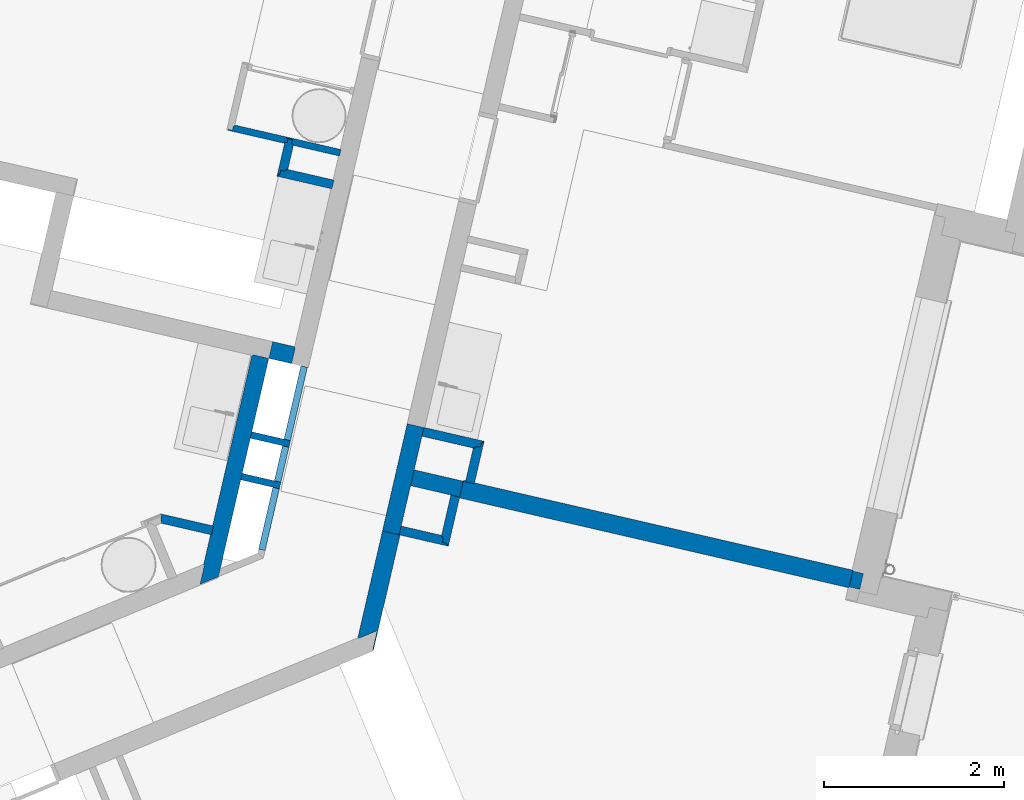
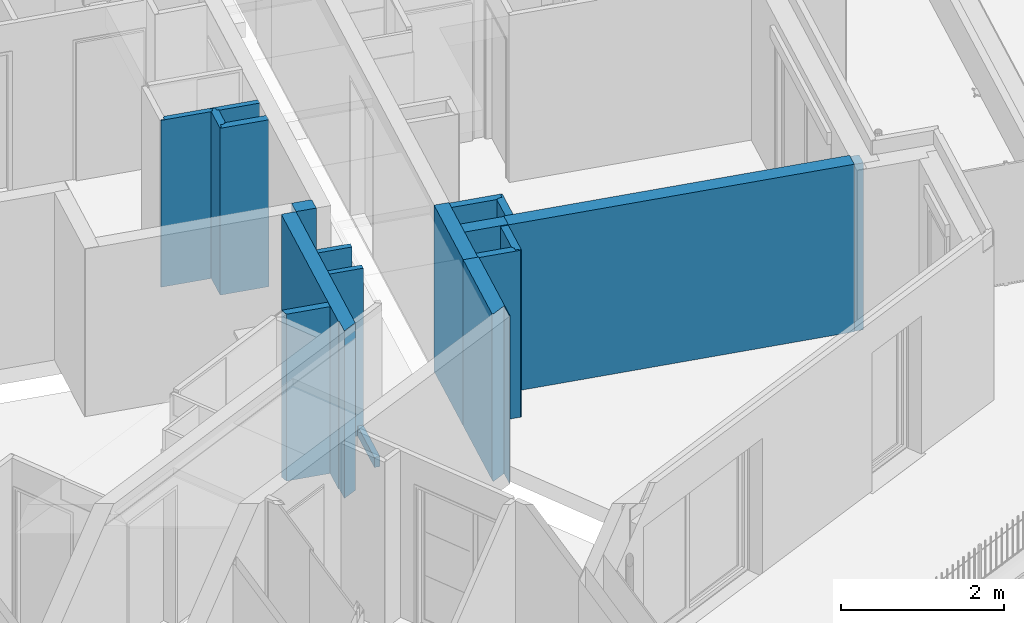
# One storey, part 43 of 119: 19 walls.
"""IFC2X3 building model written with IfcOpenShell, lengths in metres."""

from ifc_helpers import new_model, entity, si_unit, converted_unit, derived_unit, money_unit, direction, frame, origin_with_axes, place, context, subcontext, project, spatial, faceted_brep, material, material_list, type_object, element, save


model = new_model("IFC2X3")

# Units and contexts
model_context = context("Model", 3, precision=1e-05, world=origin_with_axes(), true_north=direction((0.0, 1.0)))
body_context = subcontext(model_context, "Body", "Model", "MODEL_VIEW")
ifc_project = project(units=[si_unit("LENGTHUNIT", "METRE"), si_unit("AREAUNIT", "SQUARE_METRE"), si_unit("VOLUMEUNIT", "CUBIC_METRE"), converted_unit("PLANEANGLEUNIT", "DEGREE", entity("IfcPlaneAngleMeasure", 0.0174532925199), si_unit("PLANEANGLEUNIT", "RADIAN"), dimensions=[0, 0, 0, 0, 0, 0, 0]), si_unit("SOLIDANGLEUNIT", "STERADIAN"), money_unit("EUR"), converted_unit("TIMEUNIT", "Year", entity("IfcTimeMeasure", 31556926.0), si_unit("TIMEUNIT", "SECOND"), dimensions=[0, 0, 1, 0, 0, 0, 0]), si_unit("MASSUNIT", "GRAM", prefix="KILO"), si_unit("THERMODYNAMICTEMPERATUREUNIT", "DEGREE_CELSIUS"), si_unit("LUMINOUSINTENSITYUNIT", "LUMEN"), si_unit("ENERGYUNIT", "JOULE", prefix="MEGA"), derived_unit("THERMALCONDUCTANCEUNIT", [(si_unit("POWERUNIT", "WATT"), 1), (si_unit("LENGTHUNIT", "METRE"), -1), (si_unit("THERMODYNAMICTEMPERATUREUNIT", "KELVIN"), -1)]), derived_unit("SPECIFICHEATCAPACITYUNIT", [(si_unit("ENERGYUNIT", "JOULE"), 1), (si_unit("MASSUNIT", "GRAM", prefix="KILO"), -1), (si_unit("THERMODYNAMICTEMPERATUREUNIT", "KELVIN"), -1)]), derived_unit("MASSDENSITYUNIT", [(si_unit("MASSUNIT", "GRAM", prefix="KILO"), 1), (si_unit("VOLUMEUNIT", "CUBIC_METRE"), -1)])], contexts=[model_context])

# Site, building, storey
site_placement = place(None, origin_with_axes())
site = spatial("IfcSite", under=ifc_project, at=site_placement, Name="Site", CompositionType="ELEMENT")
building_placement = place(site_placement, origin_with_axes())
building = spatial("IfcBuilding", under=site, at=building_placement, Name="Bâtiment", CompositionType="ELEMENT")
storey_placement = place(building_placement, origin_with_axes())
storey = spatial("IfcBuildingStorey", under=building, at=storey_placement, Name="Rez-de-chaussée", CompositionType="ELEMENT", Elevation=0.0)

# Walls
ifc_material_1 = material(Name="Cloison - Carreaux de plâtre")
wall_type_1 = type_object("IfcWallType", Name="Cloison - Carreaux de plâtre 74", PredefinedType="USERDEFINED")
wall_1_placement = place(storey_placement, frame((-14.2603679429, -15.3325991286, 0.0), z_axis=(0.0, 0.0, 1.0), x_axis=(-0.224876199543, -0.974387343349, 0.0)))
element("IfcWall", 1, at=wall_1_placement, inside=storey, type_object=wall_type_1, material=ifc_material_1, Name="Carreaux de plâtre 8cm", ObjectType="PARTITIONING", context=body_context, shape_type="Brep", body=[
    faceted_brep([(2.0880083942, 0.0, 0.15), (2.0880083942, 0.0, 0.0), (0.0, 0.0, 0.0), (0.0, 0.0, 0.15), (2.0880083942, -0.074, 0.15), (2.0880083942, -0.074, 0.0), (0.0, -0.074, 0.0), (0.0, -0.074, 0.15)], [[[0, 1, 2, 3]], [[4, 5, 1, 0]], [[1, 5, 6, 2]], [[2, 6, 7, 3]], [[4, 0, 3, 7]], [[5, 4, 7, 6]]]),
])
wall_2_placement = place(storey_placement, frame((-14.5715853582, -16.6811024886, 0.0), z_axis=(0.0, 0.0, 1.0), x_axis=(-0.974387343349, 0.224876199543, 0.0)))
element("IfcWall", 2, at=wall_2_placement, inside=storey, type_object=wall_type_1, material=ifc_material_1, Name="Carreaux de plâtre 8cm", ObjectType="PARTITIONING", context=body_context, shape_type="Brep", body=[
    faceted_brep([(0.0, -0.074, 2.5), (0.0, 0.0, 2.5), (0.0, 0.0, 0.15), (0.0, -0.074, 0.15), (0.440000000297, -0.074, 2.5), (0.440000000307, 0.0, 2.5), (0.440000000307, 0.0, 0.0), (0.0740000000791, 0.0, 0.0), (0.0740000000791, 0.0, 0.15), (0.0740000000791, -0.074, 0.15), (0.0740000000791, -0.074, 0.0), (0.440000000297, -0.074, 0.0)], [[[0, 1, 2, 3]], [[0, 4, 5, 1]], [[6, 7, 8, 2, 1, 5]], [[2, 8, 9, 3]], [[0, 3, 9, 10, 11, 4]], [[6, 5, 4, 11]], [[6, 11, 10, 7]], [[8, 7, 10, 9]]]),
])
wall_3_placement = place(storey_placement, frame((-14.4649940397, -16.2192428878, 0.0), z_axis=(0.0, 0.0, 1.0), x_axis=(-0.974387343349, 0.224876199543, 0.0)))
element("IfcWall", 3, at=wall_3_placement, inside=storey, type_object=wall_type_1, material=ifc_material_1, Name="Carreaux de plâtre 8cm", ObjectType="PARTITIONING", context=body_context, shape_type="Brep", body=[
    faceted_brep([(0.0, -0.074, 2.5), (0.0, 0.0, 2.5), (0.0, 0.0, 0.15), (0.0, -0.074, 0.15), (0.440000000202, -0.074, 2.5), (0.440000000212, 0.0, 2.5), (0.440000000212, 0.0, 0.0), (0.0740000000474, 0.0, 0.0), (0.0740000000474, 0.0, 0.15), (0.0740000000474, -0.074, 0.15), (0.0740000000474, -0.074, 0.0), (0.440000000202, -0.074, 0.0)], [[[0, 1, 2, 3]], [[0, 4, 5, 1]], [[6, 7, 8, 2, 1, 5]], [[2, 8, 9, 3]], [[0, 3, 9, 10, 11, 4]], [[6, 5, 4, 11]], [[6, 11, 10, 7]], [[8, 7, 10, 9]]]),
])
ifc_material_2 = material(Name="Finition int - Plaque de plâtre")
ifc_material_3 = material(Name="Isolation - Laine de roche")
ifc_material_list_1 = material_list([ifc_material_2, ifc_material_3, ifc_material_2])
wall_type_2 = type_object("IfcWallType", Name="3 - Cloison 72mm Placostil 74", PredefinedType="USERDEFINED")
wall_4_placement = place(storey_placement, frame((-14.4971187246, -12.7758750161, 0.0), z_axis=(0.0, 0.0, 1.0), x_axis=(-0.974387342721, 0.224876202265, 0.0)))
element("IfcWall", 4, at=wall_4_placement, inside=storey, type_object=wall_type_2, material=ifc_material_list_1, Name="Cloison Placostil 72/48", ObjectType="PARTITIONING", context=body_context, shape_type="Brep", body=[
    faceted_brep([(0.645366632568, 0.074, 2.5), (-2.16481055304e-10, 0.074, 2.5), (-1.78452808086e-10, 0.061, 2.5), (0.645366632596, 0.061, 2.5), (0.645366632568, 0.074, 0.0), (-2.16481055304e-10, 0.074, 0.0), (-1.78452808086e-10, 0.061, 0.0), (0.645366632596, 0.061, 0.0)], [[[0, 1, 2, 3]], [[4, 5, 1, 0]], [[5, 6, 2, 1]], [[3, 2, 6, 7]], [[0, 3, 7, 4]], [[7, 6, 5, 4]]]),
    faceted_brep([(0.597366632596, 0.061, 2.5), (-0.0260000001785, 0.061, 2.5), (-0.026000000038, 0.013, 2.5), (0.597366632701, 0.013, 2.5), (0.597366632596, 0.061, 0.0), (-0.0260000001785, 0.061, 0.0), (-0.026000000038, 0.013, 0.0), (0.597366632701, 0.013, 0.0)], [[[0, 1, 2, 3]], [[4, 5, 1, 0]], [[5, 6, 2, 1]], [[3, 2, 6, 7]], [[0, 3, 7, 4]], [[7, 6, 5, 4]]]),
    faceted_brep([(0.584366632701, 0.013, 2.5), (0.0, 0.013, 2.5), (0.0, 0.0, 2.5), (0.584366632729, 0.0, 2.5), (0.584366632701, 0.013, 0.0), (0.0, 0.013, 0.0), (0.0, 0.0, 0.0), (0.584366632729, 0.0, 0.0)], [[[0, 1, 2, 3]], [[4, 5, 1, 0]], [[5, 6, 2, 1]], [[3, 2, 6, 7]], [[0, 3, 7, 4]], [[7, 6, 5, 4]]]),
])
ifc_material_4 = material(Name="Finition int - Enduit plâtre")
ifc_material_5 = material(Name="Béton")
ifc_material_list_2 = material_list([ifc_material_4, ifc_material_5, ifc_material_4])
wall_type_3 = type_object("IfcWallType", Name="2 - Murs Béton 18 + Enduit 2 Faces 200", PredefinedType="USERDEFINED")
wall_5_placement = place(storey_placement, frame((-12.5304054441, -16.5970568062, 0.0), z_axis=(0.0, 0.0, 1.0), x_axis=(0.974387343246, -0.224876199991, 0.0)))
element("IfcWall", 5, at=wall_5_placement, inside=storey, type_object=wall_type_3, material=ifc_material_list_2, Name="M_Ext-009", ObjectType="SOLIDWALL", context=body_context, shape_type="Brep", body=[
    faceted_brep([(0.0, 0.01, 2.51), (4.43699999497, 0.01, 2.51), (4.43699999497, 0.01, 0.0), (0.124999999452, 0.01, 0.0), (0.124999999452, 0.01, 2.5), (0.0249999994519, 0.01, 2.5), (0.0249999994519, 0.01, 0.0), (0.0, 0.01, 0.0), (4.43699999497, 0.0, 2.51), (0.0, 0.0, 2.51), (4.43699999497, 0.0, 0.0), (0.124999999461, 0.0, 0.0), (0.124999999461, 0.0, 2.5), (0.0249999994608, 0.0, 2.5), (0.0249999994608, 0.0, 0.0), (0.0, 0.0, 0.0)], [[[0, 1, 2, 3, 4, 5, 6, 7]], [[8, 1, 0, 9]], [[1, 8, 10, 2]], [[10, 11, 3, 2]], [[12, 4, 3, 11]], [[4, 12, 13, 5]], [[14, 6, 5, 13]], [[7, 6, 14, 15]], [[9, 0, 7, 15]], [[8, 9, 15, 14, 13, 12, 11, 10]]]),
    faceted_brep([(0.0, 0.0, 2.51), (4.43699999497, 0.0, 2.51), (4.43699999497, 0.0, 0.0), (0.0, 0.0, 0.0), (4.43699999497, -0.18, 2.51), (0.0, -0.18, 2.51), (4.43699999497, -0.18, 0.0), (0.0, -0.18, 0.0)], [[[0, 1, 2, 3]], [[4, 1, 0, 5]], [[1, 4, 6, 2]], [[6, 7, 3, 2]], [[5, 0, 3, 7]], [[4, 5, 7, 6]]]),
    faceted_brep([(0.0, -0.18, 2.51), (4.43699999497, -0.18, 2.51), (4.43699999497, -0.18, 0.0), (0.0, -0.18, 0.0), (4.43699999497, -0.19, 2.51), (0.0, -0.19, 2.51), (4.43699999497, -0.19, 0.0), (0.0, -0.19, 0.0)], [[[0, 1, 2, 3]], [[4, 1, 0, 5]], [[1, 4, 6, 2]], [[6, 7, 3, 2]], [[5, 0, 3, 7]], [[4, 5, 7, 6]]]),
])
wall_6_placement = place(storey_placement, frame((-13.4178604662, -17.1516950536, 0.0), z_axis=(0.0, 0.0, 1.0), x_axis=(-0.224876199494, -0.97438734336, 0.0)))
element("IfcWall", 6, at=wall_6_placement, inside=storey, type_object=wall_type_3, material=ifc_material_list_2, Name="M_Ext-009", ObjectType="SOLIDWALL", context=body_context, shape_type="Brep", body=[
    faceted_brep([(0.0, 0.18, 2.51), (0.0, 0.19, 2.51), (0.0, 0.19, 0.0), (0.0, 0.18, 0.0), (1.30771332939, 0.19, 2.51), (1.31485211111, 0.18, 2.51), (1.30771332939, 0.19, 0.0), (1.31485211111, 0.18, 0.0)], [[[0, 1, 2, 3]], [[4, 1, 0, 5]], [[1, 4, 6, 2]], [[7, 3, 2, 6]], [[5, 0, 3, 7]], [[4, 5, 7, 6]]]),
    faceted_brep([(0.0, 0.0, 2.51), (0.0, 0.18, 2.51), (0.0, 0.18, 0.0), (0.0, 0.0, 0.0), (1.09369209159, 0.18, 2.51), (1.22219016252, 0.0, 2.51), (1.09369209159, 0.18, 0.0), (1.22219016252, 0.0, 0.0)], [[[0, 1, 2, 3]], [[4, 1, 0, 5]], [[1, 4, 6, 2]], [[7, 3, 2, 6]], [[5, 0, 3, 7]], [[4, 5, 7, 6]]]),
    faceted_brep([(0.0, -0.0010896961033, 0.02), (0.0, -0.01, 0.02), (0.0, -0.01, 2.51), (0.0, 0.0, 2.51), (0.0, 0.0, 0.0), (0.0, -0.0010896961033, 0.0), (1.20991131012, -1.09477379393e-05, 0.02), (1.21704227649, -0.01, 0.02), (1.21704227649, -0.01, 2.51), (1.20990349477, 0.0, 2.51), (1.20990349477, 0.0, 0.0), (1.20991131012, -1.09477379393e-05, 0.0)], [[[0, 1, 2, 3, 4, 5]], [[1, 0, 6, 7]], [[1, 7, 8, 2]], [[9, 3, 2, 8]], [[3, 9, 10, 4]], [[11, 5, 4, 10]], [[6, 0, 5, 11]], [[6, 11, 10, 9, 8, 7]]]),
])
wall_type_4 = type_object("IfcWallType", Name="3 - Cloison Gaine Technique 72mm 74", PredefinedType="USERDEFINED")
wall_7_placement = place(storey_placement, frame((-13.7121197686, -12.9570427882, 0.0), z_axis=(0.0, 0.0, 1.0), x_axis=(-0.974387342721, 0.224876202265, 0.0)))
element("IfcWall", 7, at=wall_7_placement, inside=storey, type_object=wall_type_4, material=ifc_material_list_1, Name="Cloison Placostil 72/48", ObjectType="PARTITIONING", context=body_context, shape_type="Brep", body=[
    faceted_brep([(0.705633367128, 0.074, 0.0), (0.705633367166, 0.061, 0.0), (0.179999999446, 0.061, 0.0), (0.179999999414, 0.074, 0.0), (0.705633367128, 0.074, 2.5), (0.705633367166, 0.061, 2.5), (0.179999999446, 0.061, 2.5), (0.179999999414, 0.074, 2.5)], [[[0, 1, 2, 3]], [[1, 0, 4, 5]], [[1, 5, 6, 2]], [[7, 3, 2, 6]], [[4, 0, 3, 7]], [[5, 4, 7, 6]]]),
    faceted_brep([(0.731633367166, 0.061, 0.0), (0.731633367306, 0.013, 0.0), (0.179999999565, 0.013, 0.0), (0.179999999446, 0.061, 0.0), (0.731633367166, 0.061, 2.5), (0.731633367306, 0.013, 2.5), (0.179999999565, 0.013, 2.5), (0.179999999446, 0.061, 2.5)], [[[0, 1, 2, 3]], [[1, 0, 4, 5]], [[1, 5, 6, 2]], [[7, 3, 2, 6]], [[4, 0, 3, 7]], [[5, 4, 7, 6]]]),
    faceted_brep([(0.179999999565, 0.013, 0.0), (0.779633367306, 0.013, 0.0), (0.779633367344, 0.0, 0.0), (0.179999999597, 0.0, 0.0), (0.179999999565, 0.013, 2.5), (0.779633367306, 0.013, 2.5), (0.779633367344, 0.0, 2.5), (0.179999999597, 0.0, 2.5)], [[[0, 1, 2, 3]], [[4, 5, 1, 0]], [[6, 2, 1, 5]], [[3, 2, 6, 7]], [[7, 4, 0, 3]], [[7, 6, 5, 4]]]),
])
ifc_material_list_3 = material_list([ifc_material_5, ifc_material_4])
wall_type_5 = type_object("IfcWallType", Name="2 - Murs Béton 18 + Enduit 1 Face 190", PredefinedType="USERDEFINED")
wall_8_placement = place(storey_placement, frame((-14.6988422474, -15.2314048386, 0.0), z_axis=(0.0, 0.0, 1.0), x_axis=(-0.224876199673, -0.974387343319, 0.0)))
element("IfcWall", 8, at=wall_8_placement, inside=storey, type_object=wall_type_5, material=ifc_material_list_3, Name="M_Ext-009", ObjectType="SOLIDWALL", context=body_context, shape_type="Brep", body=[
    faceted_brep([(-1.19925402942e-10, -0.17, 2.51), (0.0, 0.01, 2.51), (0.0, 0.01, 0.0), (-1.19925402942e-10, -0.17, 0.0), (2.48615074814, 0.0100000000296, 2.51), (2.61464881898, -0.17, 2.51), (2.48615074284, 0.0100000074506, 0.0), (2.61464881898, -0.17, 0.0)], [[[0, 1, 2, 3]], [[4, 1, 0, 5]], [[1, 4, 6, 2]], [[2, 6, 7, 3]], [[5, 0, 3, 7]], [[4, 5, 7, 6]]]),
    faceted_brep([(0.00999999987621, -0.18, 2.51), (0.00999999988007, -0.17, 2.51), (0.00999999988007, -0.17, 0.0), (0.00999999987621, -0.18, 0.0), (2.39348879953, -0.17, 2.51), (2.40062758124, -0.18, 2.51), (2.39348879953, -0.17, 0.0), (2.05117319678, -0.17, 0.0), (2.05117319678, -0.17, 2.5), (1.95117319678, -0.17, 2.5), (1.95117319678, -0.17, 0.0), (1.95117319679, -0.18, 0.0), (1.95117319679, -0.18, 2.5), (2.05117319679, -0.18, 2.5), (2.05117319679, -0.18, 0.0), (2.40062758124, -0.18, 0.0)], [[[0, 1, 2, 3]], [[4, 1, 0, 5]], [[1, 4, 6, 7, 8, 9, 10, 2]], [[2, 10, 11, 3]], [[5, 0, 3, 11, 12, 13, 14, 15]], [[4, 5, 15, 6]], [[15, 14, 7, 6]], [[13, 8, 7, 14]], [[12, 9, 8, 13]], [[11, 10, 9, 12]]]),
])
wall_9_placement = place(storey_placement, frame((-13.1431411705, -15.961337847, 0.0), z_axis=(0.0, 0.0, 1.0), x_axis=(-0.224876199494, -0.97438734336, 0.0)))
element("IfcWall", 9, at=wall_9_placement, inside=storey, type_object=wall_type_5, material=ifc_material_list_3, Name="M_Ext-009", ObjectType="SOLIDWALL", context=body_context, shape_type="Brep", body=[
    faceted_brep([(0.0, 0.0, 2.51), (0.0, 0.18, 2.51), (0.0, 0.18, 0.0), (0.0, 0.0, 0.0), (1.22164682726, 0.18, 2.51), (1.22164682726, 0.0, 2.51), (1.22164682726, 0.18, 0.0), (1.22164682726, 0.0, 0.0)], [[[0, 1, 2, 3]], [[4, 1, 0, 5]], [[1, 4, 6, 2]], [[7, 3, 2, 6]], [[5, 0, 3, 7]], [[4, 5, 7, 6]]]),
    faceted_brep([(0.0, -0.00217890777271, 0.02), (0.0, -0.01, 0.02), (0.0, -0.01, 2.51), (0.0, 0.0, 2.51), (0.0, 0.0, 0.0), (0.0, -0.00217890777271, 0.0), (1.22164682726, -0.00108969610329, 0.02), (1.22164682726, -0.01, 0.02), (1.22164682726, -0.01, 2.51), (1.22164682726, 0.0, 2.51), (1.22164682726, 0.0, 0.0), (1.22164682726, -0.00108969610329, 0.0)], [[[0, 1, 2, 3, 4, 5]], [[1, 0, 6, 7]], [[1, 7, 8, 2]], [[9, 3, 2, 8]], [[3, 9, 10, 4]], [[11, 5, 4, 10]], [[6, 0, 5, 11]], [[6, 11, 10, 9, 8, 7]]]),
])
ifc_material_list_4 = material_list([ifc_material_4, ifc_material_5])
wall_10_placement = place(storey_placement, frame((-14.6890983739, -15.2336536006, 0.0), z_axis=(0.0, 0.0, 1.0), x_axis=(0.974387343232, -0.224876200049, 0.0)))
element("IfcWall", 10, at=wall_10_placement, inside=storey, type_object=wall_type_5, material=ifc_material_list_4, Name="M_Ext-009", ObjectType="SOLIDWALL", context=body_context, shape_type="Brep", body=[
    faceted_brep([(0.0, 0.19, 2.51), (0.250000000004, 0.19, 2.51), (0.250000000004, 0.19, 0.0), (0.0, 0.19, 0.0), (0.250000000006, 0.18, 2.51), (0.0, 0.18, 2.51), (0.250000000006, 0.18, 0.0), (0.0, 0.18, 0.0)], [[[0, 1, 2, 3]], [[4, 1, 0, 5]], [[1, 4, 6, 2]], [[3, 2, 6, 7]], [[5, 0, 3, 7]], [[4, 5, 7, 6]]]),
    faceted_brep([(0.0, 0.18, 2.51), (0.260000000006, 0.18, 2.51), (0.260000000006, 0.18, 0.0), (0.0, 0.18, 0.0), (0.260000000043, 0.0, 2.51), (0.0, 0.0, 2.51), (0.260000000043, 0.0, 0.0), (0.0, 0.0, 0.0)], [[[0, 1, 2, 3]], [[4, 1, 0, 5]], [[1, 4, 6, 2]], [[3, 2, 6, 7]], [[5, 0, 3, 7]], [[4, 5, 7, 6]]]),
])
wall_type_6 = type_object("IfcWallType", Name="Béton 180", PredefinedType="USERDEFINED")
wall_11_placement = place(storey_placement, frame((-13.2514520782, -16.4306484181, 0.0), z_axis=(0.0, 0.0, 1.0), x_axis=(0.974387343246, -0.224876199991, 0.0)))
element("IfcWall", 11, at=wall_11_placement, inside=storey, type_object=wall_type_6, material=ifc_material_5, Name="M_Ext-009", ObjectType="SOLIDWALL", context=body_context, shape_type="Brep", body=[
    faceted_brep([(0.180000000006, 0.0, 0.0), (0.180000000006, 0.0, 2.51), (0.74000000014, 0.0, 2.51), (0.74000000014, 0.0, 0.0), (0.180000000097, -0.18, 0.0), (0.180000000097, -0.18, 2.51), (0.74000000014, -0.18, 2.51), (0.74000000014, -0.18, 0.0)], [[[0, 1, 2, 3]], [[4, 5, 1, 0]], [[5, 6, 2, 1]], [[3, 2, 6, 7]], [[3, 7, 4, 0]], [[7, 6, 5, 4]]]),
])
wall_12_placement = place(storey_placement, frame((-8.09012230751, -17.6218176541, 0.0), z_axis=(0.0, 0.0, 1.0), x_axis=(-0.974387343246, 0.224876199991, 0.0)))
element("IfcWall", 12, at=wall_12_placement, inside=storey, type_object=wall_type_6, material=ifc_material_5, Name="M_Ext-009", ObjectType="SOLIDWALL", context=body_context, shape_type="Brep", body=[
    faceted_brep([(0.0, 0.0, 0.0), (0.0, 0.18, 0.0), (0.120000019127, 0.18, 0.0), (0.120000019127, 0.0, 0.0), (0.0, 0.0, 2.5), (0.0, 0.18, 2.5), (0.120000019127, 0.18, 2.5), (0.120000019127, 0.0, 2.5)], [[[0, 1, 2, 3]], [[4, 5, 1, 0]], [[1, 5, 6, 2]], [[7, 3, 2, 6]], [[4, 0, 3, 7]], [[5, 4, 7, 6]]]),
])
ifc_material_list_5 = material_list([ifc_material_2, ifc_material_2, ifc_material_3, ifc_material_2, ifc_material_2])
wall_type_7 = type_object("IfcWallType", Name="3 - Cloison Gaine Technique 98mm 100", PredefinedType="USERDEFINED")
wall_13_placement = place(storey_placement, frame((-14.5978632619, -13.2124005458, 0.0), z_axis=(0.0, 0.0, 1.0), x_axis=(0.224876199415, 0.974387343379, 0.0)))
element("IfcWall", 13, at=wall_13_placement, inside=storey, type_object=wall_type_7, material=ifc_material_list_5, Name="Cloison 98 isolée", ObjectType="PARTITIONING", context=body_context, shape_type="Brep", body=[
    faceted_brep([(0.0130000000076, -0.013, 0.0), (0.386999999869, -0.013, 0.0), (0.386999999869, -0.013, 2.5), (0.0130000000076, -0.013, 2.5), (0.013, 0.0, 0.0), (0.386999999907, 0.0, 0.0), (0.386999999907, 0.0, 2.5), (0.013, 0.0, 2.5)], [[[0, 1, 2, 3]], [[4, 5, 1, 0]], [[5, 6, 2, 1]], [[3, 2, 6, 7]], [[4, 0, 3, 7]], [[7, 6, 5, 4]]]),
    faceted_brep([(0.447999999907, 0.0, 2.5), (0.434999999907, 0.0, 2.5), (0.434999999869, -0.013, 2.5), (0.447999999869, -0.013, 2.5), (0.447999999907, 0.0, 0.0), (0.434999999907, 0.0, 0.0), (0.434999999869, -0.013, 0.0), (0.447999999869, -0.013, 0.0)], [[[0, 1, 2, 3]], [[4, 5, 1, 0]], [[5, 6, 2, 1]], [[3, 2, 6, 7]], [[4, 0, 3, 7]], [[7, 6, 5, 4]]]),
    faceted_brep([(0.0260000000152, -0.026, 0.0), (0.386999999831, -0.026, 0.0), (0.386999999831, -0.026, 2.5), (0.0260000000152, -0.026, 2.5), (0.0260000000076, -0.013, 0.0), (0.386999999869, -0.013, 0.0), (0.386999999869, -0.013, 2.5), (0.0260000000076, -0.013, 2.5)], [[[0, 1, 2, 3]], [[4, 5, 1, 0]], [[5, 6, 2, 1]], [[3, 2, 6, 7]], [[4, 0, 3, 7]], [[7, 6, 5, 4]]]),
    faceted_brep([(0.447999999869, -0.013, 2.5), (0.434999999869, -0.013, 2.5), (0.434999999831, -0.026, 2.5), (0.447999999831, -0.026, 2.5), (0.447999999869, -0.013, 0.0), (0.434999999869, -0.013, 0.0), (0.434999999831, -0.026, 0.0), (0.447999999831, -0.026, 0.0)], [[[0, 1, 2, 3]], [[4, 5, 1, 0]], [[5, 6, 2, 1]], [[3, 2, 6, 7]], [[4, 0, 3, 7]], [[7, 6, 5, 4]]]),
    faceted_brep([(0.0740000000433, -0.074, 2.5), (0.43499999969, -0.074, 2.5), (0.434999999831, -0.026, 2.5), (0.0740000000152, -0.026, 2.5), (0.0740000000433, -0.074, 0.0), (0.43499999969, -0.074, 0.0), (0.434999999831, -0.026, 0.0), (0.0740000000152, -0.026, 0.0)], [[[0, 1, 2, 3]], [[4, 5, 1, 0]], [[6, 2, 1, 5]], [[3, 2, 6, 7]], [[7, 4, 0, 3]], [[7, 6, 5, 4]]]),
    faceted_brep([(0.386999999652, -0.087, 2.5), (0.38699999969, -0.074, 2.5), (0.0870000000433, -0.074, 2.5), (0.0870000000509, -0.087, 2.5), (0.386999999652, -0.087, 0.0), (0.38699999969, -0.074, 0.0), (0.0870000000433, -0.074, 0.0), (0.0870000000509, -0.087, 0.0)], [[[0, 1, 2, 3]], [[1, 0, 4, 5]], [[1, 5, 6, 2]], [[7, 3, 2, 6]], [[4, 0, 3, 7]], [[5, 4, 7, 6]]]),
    faceted_brep([(0.386999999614, -0.1, 2.5), (0.386999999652, -0.087, 2.5), (0.100000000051, -0.087, 2.5), (0.100000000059, -0.1, 2.5), (0.386999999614, -0.1, 0.0), (0.386999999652, -0.087, 0.0), (0.100000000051, -0.087, 0.0), (0.100000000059, -0.1, 0.0)], [[[0, 1, 2, 3]], [[1, 0, 4, 5]], [[1, 5, 6, 2]], [[7, 3, 2, 6]], [[4, 0, 3, 7]], [[5, 4, 7, 6]]]),
])
wall_14_placement = place(storey_placement, frame((-12.6968138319, -17.3181034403, 0.0), z_axis=(0.0, 0.0, 1.0), x_axis=(-0.97438734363, 0.224876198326, 0.0)))
element("IfcWall", 14, at=wall_14_placement, inside=storey, type_object=wall_type_7, material=ifc_material_list_5, Name="Cloison 98 isolée", ObjectType="PARTITIONING", context=body_context, shape_type="Brep", body=[
    faceted_brep([(0.0129999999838, -0.013, 0.0), (0.559999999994, -0.013, 0.0), (0.559999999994, -0.013, 2.5), (0.0129999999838, -0.013, 2.5), (0.013, 0.0, 0.0), (0.56000000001, 0.0, 0.0), (0.56000000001, 0.0, 2.5), (0.013, 0.0, 2.5)], [[[0, 1, 2, 3]], [[4, 5, 1, 0]], [[5, 6, 2, 1]], [[3, 2, 6, 7]], [[4, 0, 3, 7]], [[7, 6, 5, 4]]]),
    faceted_brep([(0.0259999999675, -0.026, 0.0), (0.559999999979, -0.026, 0.0), (0.559999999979, -0.026, 2.5), (0.0259999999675, -0.026, 2.5), (0.0259999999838, -0.013, 0.0), (0.559999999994, -0.013, 0.0), (0.559999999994, -0.013, 2.5), (0.0259999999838, -0.013, 2.5)], [[[0, 1, 2, 3]], [[4, 5, 1, 0]], [[5, 6, 2, 1]], [[3, 2, 6, 7]], [[4, 0, 3, 7]], [[7, 6, 5, 4]]]),
    faceted_brep([(0.0739999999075, -0.074, 0.0), (0.559999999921, -0.074, 0.0), (0.559999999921, -0.074, 2.5), (0.0739999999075, -0.074, 2.5), (0.0739999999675, -0.026, 0.0), (0.559999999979, -0.026, 0.0), (0.559999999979, -0.026, 2.5), (0.0739999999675, -0.026, 2.5)], [[[0, 1, 2, 3]], [[4, 5, 1, 0]], [[5, 6, 2, 1]], [[3, 2, 6, 7]], [[4, 0, 3, 7]], [[7, 6, 5, 4]]]),
    faceted_brep([(0.0869999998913, -0.087, 0.0), (0.559999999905, -0.087, 0.0), (0.559999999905, -0.087, 2.5), (0.0869999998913, -0.087, 2.5), (0.0869999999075, -0.074, 0.0), (0.559999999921, -0.074, 0.0), (0.559999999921, -0.074, 2.5), (0.0869999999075, -0.074, 2.5)], [[[0, 1, 2, 3]], [[4, 5, 1, 0]], [[5, 6, 2, 1]], [[3, 2, 6, 7]], [[4, 0, 3, 7]], [[7, 6, 5, 4]]]),
    faceted_brep([(0.099999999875, -0.1, 0.0), (0.55999999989, -0.1, 0.0), (0.55999999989, -0.1, 2.5), (0.099999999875, -0.1, 2.5), (0.0999999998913, -0.087, 0.0), (0.559999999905, -0.087, 0.0), (0.559999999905, -0.087, 2.5), (0.0999999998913, -0.087, 2.5)], [[[0, 1, 2, 3]], [[4, 5, 1, 0]], [[5, 6, 2, 1]], [[3, 2, 6, 7]], [[4, 0, 3, 7]], [[7, 6, 5, 4]]]),
])
wall_15_placement = place(storey_placement, frame((-12.5304054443, -16.5970568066, 0.0), z_axis=(0.0, 0.0, 1.0), x_axis=(-0.224876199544, -0.974387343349, 0.0)))
element("IfcWall", 15, at=wall_15_placement, inside=storey, type_object=wall_type_7, material=ifc_material_list_5, Name="Cloison 98 isolée", ObjectType="PARTITIONING", context=body_context, shape_type="Brep", body=[
    faceted_brep([(0.7399999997, 0.0, 0.0), (0.179999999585, 0.0, 0.0), (0.179999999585, 0.0, 2.5), (0.7399999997, 0.0, 2.5), (0.739999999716, -0.013, 0.0), (0.179999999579, -0.013, 0.0), (0.179999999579, -0.013, 2.5), (0.739999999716, -0.013, 2.5)], [[[0, 1, 2, 3]], [[4, 5, 1, 0]], [[5, 6, 2, 1]], [[3, 2, 6, 7]], [[4, 0, 3, 7]], [[7, 6, 5, 4]]]),
    faceted_brep([(0.726999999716, -0.013, 0.0), (0.179999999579, -0.013, 0.0), (0.179999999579, -0.013, 2.5), (0.726999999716, -0.013, 2.5), (0.726999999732, -0.026, 0.0), (0.179999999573, -0.026, 0.0), (0.179999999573, -0.026, 2.5), (0.726999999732, -0.026, 2.5)], [[[0, 1, 2, 3]], [[4, 5, 1, 0]], [[5, 6, 2, 1]], [[3, 2, 6, 7]], [[4, 0, 3, 7]], [[7, 6, 5, 4]]]),
    faceted_brep([(0.713999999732, -0.026, 0.0), (0.179999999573, -0.026, 0.0), (0.179999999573, -0.026, 2.5), (0.713999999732, -0.026, 2.5), (0.713999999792, -0.074, 0.0), (0.179999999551, -0.074, 0.0), (0.179999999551, -0.074, 2.5), (0.713999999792, -0.074, 2.5)], [[[0, 1, 2, 3]], [[4, 5, 1, 0]], [[5, 6, 2, 1]], [[3, 2, 6, 7]], [[4, 0, 3, 7]], [[7, 6, 5, 4]]]),
    faceted_brep([(0.665999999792, -0.074, 0.0), (0.179999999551, -0.074, 0.0), (0.179999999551, -0.074, 2.5), (0.665999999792, -0.074, 2.5), (0.665999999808, -0.087, 0.0), (0.179999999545, -0.087, 0.0), (0.179999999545, -0.087, 2.5), (0.665999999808, -0.087, 2.5)], [[[0, 1, 2, 3]], [[4, 5, 1, 0]], [[5, 6, 2, 1]], [[3, 2, 6, 7]], [[4, 0, 3, 7]], [[7, 6, 5, 4]]]),
    faceted_brep([(0.652999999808, -0.087, 0.0), (0.179999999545, -0.087, 0.0), (0.179999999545, -0.087, 2.5), (0.652999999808, -0.087, 2.5), (0.652999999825, -0.1, 0.0), (0.179999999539, -0.1, 0.0), (0.179999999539, -0.1, 2.5), (0.652999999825, -0.1, 2.5)], [[[0, 1, 2, 3]], [[4, 5, 1, 0]], [[5, 6, 2, 1]], [[3, 2, 6, 7]], [[4, 0, 3, 7]], [[7, 6, 5, 4]]]),
])
wall_16_placement = place(storey_placement, frame((-12.4086070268, -16.6251663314, 0.0), z_axis=(0.0, 0.0, 1.0), x_axis=(0.224876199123, 0.974387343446, 0.0)))
element("IfcWall", 16, at=wall_16_placement, inside=storey, type_object=wall_type_7, material=ifc_material_list_5, Name="Cloison 98 isolée", ObjectType="PARTITIONING", context=body_context, shape_type="Brep", body=[
    faceted_brep([(0.383646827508, 0.1, 0.0), (0.383646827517, 0.087, 0.0), (4.59671412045e-10, 0.087, 0.0), (4.71249705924e-10, 0.1, 0.0), (0.383646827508, 0.1, 2.5), (0.383646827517, 0.087, 2.5), (4.59671412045e-10, 0.087, 2.5), (4.71249705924e-10, 0.1, 2.5)], [[[0, 1, 2, 3]], [[1, 0, 4, 5]], [[1, 5, 6, 2]], [[7, 3, 2, 6]], [[4, 0, 3, 7]], [[5, 4, 7, 6]]]),
    faceted_brep([(0.396646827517, 0.087, 0.0), (0.396646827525, 0.074, 0.0), (4.48093118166e-10, 0.074, 0.0), (4.59671412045e-10, 0.087, 0.0), (0.396646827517, 0.087, 2.5), (0.396646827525, 0.074, 2.5), (4.48093118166e-10, 0.074, 2.5), (4.59671412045e-10, 0.087, 2.5)], [[[0, 1, 2, 3]], [[1, 0, 4, 5]], [[1, 5, 6, 2]], [[7, 3, 2, 6]], [[4, 0, 3, 7]], [[5, 4, 7, 6]]]),
    faceted_brep([(0.409646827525, 0.074, 0.0), (0.409646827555, 0.026, 0.0), (4.05350419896e-10, 0.026, 0.0), (4.48093118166e-10, 0.074, 0.0), (0.409646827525, 0.074, 2.5), (0.409646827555, 0.026, 2.5), (4.05350419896e-10, 0.026, 2.5), (4.48093118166e-10, 0.074, 2.5)], [[[0, 1, 2, 3]], [[1, 0, 4, 5]], [[1, 5, 6, 2]], [[7, 3, 2, 6]], [[4, 0, 3, 7]], [[5, 4, 7, 6]]]),
    faceted_brep([(0.457646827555, 0.026, 0.0), (0.457646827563, 0.013, 0.0), (3.93768573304e-10, 0.013, 0.0), (4.05350419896e-10, 0.026, 0.0), (0.457646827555, 0.026, 2.5), (0.457646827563, 0.013, 2.5), (3.93768573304e-10, 0.013, 2.5), (4.05350419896e-10, 0.026, 2.5)], [[[0, 1, 2, 3]], [[1, 0, 4, 5]], [[1, 5, 6, 2]], [[7, 3, 2, 6]], [[4, 0, 3, 7]], [[5, 4, 7, 6]]]),
    faceted_brep([(0.470646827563, 0.013, 0.0), (0.470646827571, 0.0, 0.0), (3.82186726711e-10, 0.0, 0.0), (3.93768573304e-10, 0.013, 0.0), (0.470646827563, 0.013, 2.5), (0.470646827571, 0.0, 2.5), (3.82186726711e-10, 0.0, 2.5), (3.93768573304e-10, 0.013, 2.5)], [[[0, 1, 2, 3]], [[1, 0, 4, 5]], [[1, 5, 6, 2]], [[7, 3, 2, 6]], [[4, 0, 3, 7]], [[5, 4, 7, 6]]]),
])
wall_17_placement = place(storey_placement, frame((-13.8128643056, -13.3935683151, 0.0), z_axis=(0.0, 0.0, 1.0), x_axis=(-0.97438734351, 0.224876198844, 0.0)))
element("IfcWall", 17, at=wall_17_placement, inside=storey, type_object=wall_type_7, material=ifc_material_list_5, Name="Cloison 98 isolée", ObjectType="PARTITIONING", context=body_context, shape_type="Brep", body=[
    faceted_brep([(0.805633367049, -0.013, 2.5), (0.805633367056, 0.0, 2.5), (0.179999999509, 0.0, 2.5), (0.179999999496, -0.013, 2.5), (0.805633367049, -0.013, 0.0), (0.805633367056, 0.0, 0.0), (0.179999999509, 0.0, 0.0), (0.179999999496, -0.013, 0.0)], [[[0, 1, 2, 3]], [[1, 0, 4, 5]], [[1, 5, 6, 2]], [[7, 3, 2, 6]], [[4, 0, 3, 7]], [[5, 4, 7, 6]]]),
    faceted_brep([(0.792633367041, -0.026, 2.5), (0.792633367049, -0.013, 2.5), (0.179999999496, -0.013, 2.5), (0.179999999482, -0.026, 2.5), (0.792633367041, -0.026, 0.0), (0.792633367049, -0.013, 0.0), (0.179999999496, -0.013, 0.0), (0.179999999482, -0.026, 0.0)], [[[0, 1, 2, 3]], [[1, 0, 4, 5]], [[1, 5, 6, 2]], [[7, 3, 2, 6]], [[4, 0, 3, 7]], [[5, 4, 7, 6]]]),
    faceted_brep([(0.779633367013, -0.074, 2.5), (0.779633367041, -0.026, 2.5), (0.179999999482, -0.026, 2.5), (0.179999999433, -0.074, 2.5), (0.779633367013, -0.074, 0.0), (0.779633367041, -0.026, 0.0), (0.179999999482, -0.026, 0.0), (0.179999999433, -0.074, 0.0)], [[[0, 1, 2, 3]], [[1, 0, 4, 5]], [[1, 5, 6, 2]], [[7, 3, 2, 6]], [[4, 0, 3, 7]], [[5, 4, 7, 6]]]),
    faceted_brep([(0.731633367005, -0.087, 2.5), (0.731633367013, -0.074, 2.5), (0.179999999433, -0.074, 2.5), (0.179999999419, -0.087, 2.5), (0.731633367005, -0.087, 0.0), (0.731633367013, -0.074, 0.0), (0.179999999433, -0.074, 0.0), (0.179999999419, -0.087, 0.0)], [[[0, 1, 2, 3]], [[1, 0, 4, 5]], [[1, 5, 6, 2]], [[7, 3, 2, 6]], [[4, 0, 3, 7]], [[5, 4, 7, 6]]]),
    faceted_brep([(0.718633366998, -0.1, 2.5), (0.718633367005, -0.087, 2.5), (0.179999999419, -0.087, 2.5), (0.179999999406, -0.1, 2.5), (0.718633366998, -0.1, 0.0), (0.718633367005, -0.087, 0.0), (0.179999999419, -0.087, 0.0), (0.179999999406, -0.1, 0.0)], [[[0, 1, 2, 3]], [[1, 0, 4, 5]], [[1, 5, 6, 2]], [[7, 3, 2, 6]], [[4, 0, 3, 7]], [[5, 4, 7, 6]]]),
])
wall_18_placement = place(storey_placement, frame((-13.1651790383, -16.0568278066, 0.0), z_axis=(0.0, 0.0, 1.0), x_axis=(0.974387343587, -0.224876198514, 0.0)))
element("IfcWall", 18, at=wall_18_placement, inside=storey, type_object=wall_type_7, material=ifc_material_list_5, Name="Cloison 98 isolée", ObjectType="PARTITIONING", context=body_context, shape_type="Brep", body=[
    faceted_brep([(0.864999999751, 0.1, 0.0), (0.864999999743, 0.087, 0.0), (0.180000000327, 0.087, 0.0), (0.18000000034, 0.1, 0.0), (0.864999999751, 0.1, 2.5), (0.864999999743, 0.087, 2.5), (0.180000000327, 0.087, 2.5), (0.18000000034, 0.1, 2.5)], [[[0, 1, 2, 3]], [[1, 0, 4, 5]], [[1, 5, 6, 2]], [[7, 3, 2, 6]], [[4, 0, 3, 7]], [[5, 4, 7, 6]]]),
    faceted_brep([(0.851999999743, 0.087, 0.0), (0.851999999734, 0.074, 0.0), (0.180000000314, 0.074, 0.0), (0.180000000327, 0.087, 0.0), (0.851999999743, 0.087, 2.5), (0.851999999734, 0.074, 2.5), (0.180000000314, 0.074, 2.5), (0.180000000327, 0.087, 2.5)], [[[0, 1, 2, 3]], [[1, 0, 4, 5]], [[1, 5, 6, 2]], [[7, 3, 2, 6]], [[4, 0, 3, 7]], [[5, 4, 7, 6]]]),
    faceted_brep([(0.838999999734, 0.074, 0.0), (0.838999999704, 0.026, 0.0), (0.180000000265, 0.026, 0.0), (0.180000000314, 0.074, 0.0), (0.838999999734, 0.074, 2.5), (0.838999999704, 0.026, 2.5), (0.180000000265, 0.026, 2.5), (0.180000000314, 0.074, 2.5)], [[[0, 1, 2, 3]], [[1, 0, 4, 5]], [[1, 5, 6, 2]], [[7, 3, 2, 6]], [[4, 0, 3, 7]], [[5, 4, 7, 6]]]),
    faceted_brep([(0.790999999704, 0.026, 0.0), (0.790999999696, 0.013, 0.0), (0.180000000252, 0.013, 0.0), (0.180000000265, 0.026, 0.0), (0.790999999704, 0.026, 2.5), (0.790999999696, 0.013, 2.5), (0.180000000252, 0.013, 2.5), (0.180000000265, 0.026, 2.5)], [[[0, 1, 2, 3]], [[1, 0, 4, 5]], [[1, 5, 6, 2]], [[7, 3, 2, 6]], [[4, 0, 3, 7]], [[5, 4, 7, 6]]]),
    faceted_brep([(0.777999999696, 0.013, 0.0), (0.777999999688, 0.0, 0.0), (0.180000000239, 0.0, 0.0), (0.180000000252, 0.013, 0.0), (0.777999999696, 0.013, 2.5), (0.777999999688, 0.0, 2.5), (0.180000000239, 0.0, 2.5), (0.180000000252, 0.013, 2.5)], [[[0, 1, 2, 3]], [[1, 0, 4, 5]], [[1, 5, 6, 2]], [[7, 3, 2, 6]], [[4, 0, 3, 7]], [[5, 4, 7, 6]]]),
])
wall_19_placement = place(storey_placement, frame((-15.8902281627, -16.9589096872, 0.0), z_axis=(0.0, 0.0, 1.0), x_axis=(0.974387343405, -0.224876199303, 0.0)))
element("IfcWall", 19, at=wall_19_placement, inside=storey, type_object=wall_type_7, material=ifc_material_list_5, Name="Cloison 98 isolée", ObjectType="PARTITIONING", context=body_context, shape_type="Brep", body=[
    faceted_brep([(0.0, 0.0, 2.5), (0.0041641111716, -0.013, 2.5), (0.602396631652, -0.013, 2.5), (0.602396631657, 0.0, 2.5), (0.0, 0.0, 0.0), (0.0041641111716, -0.013, 0.0), (0.602396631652, -0.013, 0.0), (0.602396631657, 0.0, 0.0)], [[[0, 1, 2, 3]], [[4, 5, 1, 0]], [[2, 1, 5, 6]], [[3, 2, 6, 7]], [[4, 0, 3, 7]], [[6, 5, 4, 7]]]),
    faceted_brep([(0.602396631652, -0.013, 2.5), (0.0041641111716, -0.013, 2.5), (0.00832822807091, -0.0260000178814, 2.5), (0.602396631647, -0.0260000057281, 2.5), (0.602396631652, -0.013, 0.0), (0.0041641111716, -0.013, 0.0), (0.00832822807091, -0.0260000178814, 0.0), (0.602396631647, -0.0260000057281, 0.0)], [[[0, 1, 2, 3]], [[4, 5, 1, 0]], [[5, 6, 2, 1]], [[3, 2, 6, 7]], [[0, 3, 7, 4]], [[7, 6, 5, 4]]]),
    faceted_brep([(0.602396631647, -0.0260000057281, 2.5), (0.00832822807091, -0.0260000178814, 2.5), (0.023703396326, -0.0739999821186, 2.5), (0.602396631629, -0.0739999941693, 2.5), (0.602396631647, -0.0260000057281, 0.0), (0.00832822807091, -0.0260000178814, 0.0), (0.023703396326, -0.0739999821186, 0.0), (0.602396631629, -0.0739999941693, 0.0)], [[[0, 1, 2, 3]], [[4, 5, 1, 0]], [[5, 6, 2, 1]], [[3, 2, 6, 7]], [[0, 3, 7, 4]], [[7, 6, 5, 4]]]),
    faceted_brep([(0.602396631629, -0.0739999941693, 2.5), (0.023703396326, -0.0739999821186, 2.5), (0.0278675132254, -0.087, 2.5), (0.602396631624, -0.087, 2.5), (0.602396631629, -0.0739999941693, 0.0), (0.023703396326, -0.0739999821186, 0.0), (0.0278675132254, -0.087, 0.0), (0.602396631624, -0.087, 0.0)], [[[0, 1, 2, 3]], [[4, 5, 1, 0]], [[5, 6, 2, 1]], [[3, 2, 6, 7]], [[0, 3, 7, 4]], [[7, 6, 5, 4]]]),
    faceted_brep([(0.602396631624, -0.087, 2.5), (0.0278675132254, -0.087, 2.5), (0.032031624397, -0.1, 2.5), (0.602396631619, -0.1, 2.5), (0.602396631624, -0.087, 0.0), (0.0278675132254, -0.087, 0.0), (0.032031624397, -0.1, 0.0), (0.602396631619, -0.1, 0.0)], [[[0, 1, 2, 3]], [[4, 5, 1, 0]], [[5, 6, 2, 1]], [[3, 2, 6, 7]], [[0, 3, 7, 4]], [[7, 6, 5, 4]]]),
])

save(model, "model.ifc")
